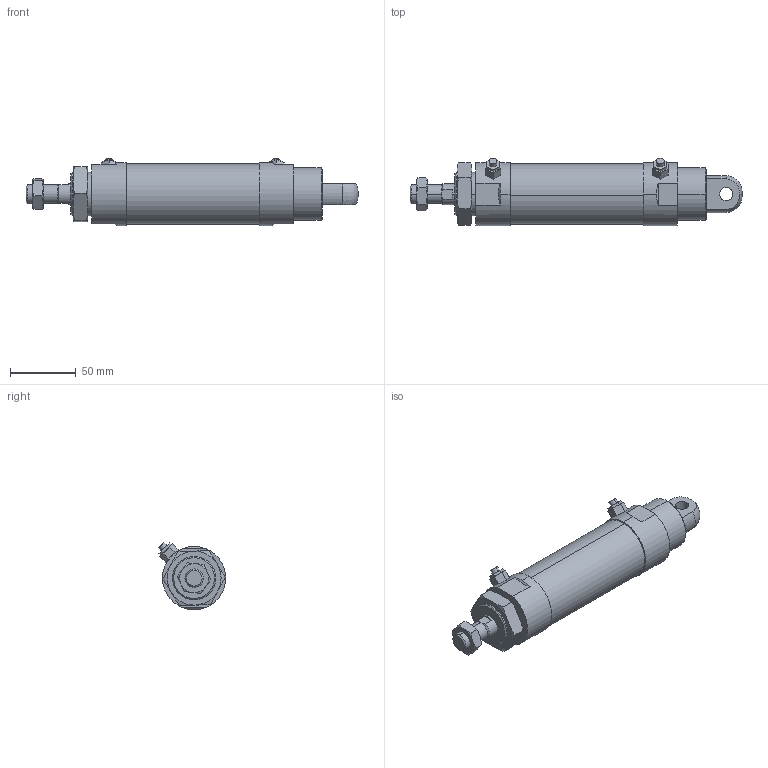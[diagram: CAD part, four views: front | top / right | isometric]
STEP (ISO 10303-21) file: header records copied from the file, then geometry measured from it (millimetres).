
FILE_DESCRIPTION (( 'STEP AP203' ), '1' );
FILE_NAME ('JG2-40-50-C.STEP', '2016-04-19T00:52:22', ( '' ), ( '' ), 'SwSTEP 2.0', 'SolidWorks 2014', '' );
FILE_SCHEMA (( 'CONFIG_CONTROL_DESIGN' ));
Length unit declared in the file: millimetre
Products named in the file (6): 40-50; JG2-40B; JG2-40C; M14x1.5-8mm; JG2-40-50-C; M33x2-11mm
Assembly tree (5 placements, depth 2):
  JG2-40-50-C
    JG2-40B
    40-50
    JG2-40C
    M14x1.5-8mm
    M33x2-11mm
Bounding box: 252 x 51.22 x 51.22 mm (x, y, z)
Volume: 325982 mm3; surface area: 48369.4 mm2
Topology: 5 solids, 5 shells, 139 faces, 318 edges, 197 vertices
Faces by surface type: plane 68, cylinder 30, torus 26, cone 15
Entity records: 5047 total; most frequent: CARTESIAN_POINT 1369, DIRECTION 635, ORIENTED_EDGE 628, EDGE_CURVE 314, AXIS2_PLACEMENT_3D 249, VERTEX_POINT 197, EDGE_LOOP 157, ADVANCED_FACE 139
